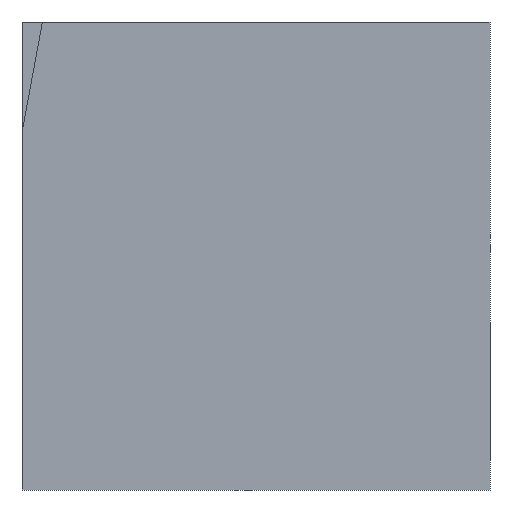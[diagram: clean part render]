
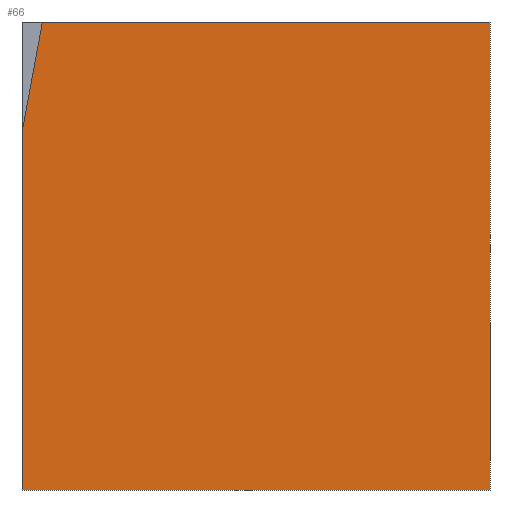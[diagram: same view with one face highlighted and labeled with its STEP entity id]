
A CAD part, front view. The second image highlights one B-rep face of the part: STEP entity #66.
In plain terms, the highlighted planar face has unit normal (0, -1, 0).
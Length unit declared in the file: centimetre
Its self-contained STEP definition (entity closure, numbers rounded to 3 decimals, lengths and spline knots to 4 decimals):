
#4 = CARTESIAN_POINT ( 'NONE',  ( 0., 0., 0. ) ) ;
#10 = VERTEX_POINT ( 'NONE', #322 ) ;
#25 = CARTESIAN_POINT ( 'NONE',  ( 43.4458, 0., 1000. ) ) ;
#33 = VECTOR ( 'NONE', #472, 100. ) ;
#45 = ORIENTED_EDGE ( 'NONE', *, *, #370, .F. ) ;
#63 = ORIENTED_EDGE ( 'NONE', *, *, #487, .T. ) ;
#66 = ADVANCED_FACE ( 'NONE', ( #373 ), #419, .F. ) ;
#73 = VERTEX_POINT ( 'NONE', #372 ) ;
#91 = DIRECTION ( 'NONE',  ( 0., 1., 0. ) ) ;
#102 = CARTESIAN_POINT ( 'NONE',  ( 1000., 0., 1000. ) ) ;
#115 = LINE ( 'NONE', #277, #311 ) ;
#126 = EDGE_CURVE ( 'NONE', #244, #361, #211, .T. ) ;
#134 = CARTESIAN_POINT ( 'NONE',  ( 0., 0., 1000. ) ) ;
#149 = LINE ( 'NONE', #4, #33 ) ;
#169 = EDGE_LOOP ( 'NONE', ( #204, #181, #281, #63, #45 ) ) ;
#181 = ORIENTED_EDGE ( 'NONE', *, *, #126, .F. ) ;
#199 = AXIS2_PLACEMENT_3D ( 'NONE', #411, #91, #450 ) ;
#204 = ORIENTED_EDGE ( 'NONE', *, *, #324, .F. ) ;
#207 = VECTOR ( 'NONE', #504, 100. ) ;
#211 = LINE ( 'NONE', #445, #207 ) ;
#228 = EDGE_CURVE ( 'NONE', #244, #345, #115, .T. ) ;
#244 = VERTEX_POINT ( 'NONE', #418 ) ;
#270 = DIRECTION ( 'NONE',  ( 0., 0., -1. ) ) ;
#277 = CARTESIAN_POINT ( 'NONE',  ( 0., 0., 1000. ) ) ;
#281 = ORIENTED_EDGE ( 'NONE', *, *, #228, .T. ) ;
#304 = DIRECTION ( 'NONE',  ( 1., 0., 0. ) ) ;
#308 = CARTESIAN_POINT ( 'NONE',  ( 0., 0., 0. ) ) ;
#311 = VECTOR ( 'NONE', #270, 100. ) ;
#322 = CARTESIAN_POINT ( 'NONE',  ( 1000., 0., 1000. ) ) ;
#324 = EDGE_CURVE ( 'NONE', #361, #10, #382, .T. ) ;
#345 = VERTEX_POINT ( 'NONE', #308 ) ;
#349 = VECTOR ( 'NONE', #376, 100. ) ;
#361 = VERTEX_POINT ( 'NONE', #25 ) ;
#370 = EDGE_CURVE ( 'NONE', #10, #73, #457, .T. ) ;
#372 = CARTESIAN_POINT ( 'NONE',  ( 1000., 0., 0. ) ) ;
#373 = FACE_OUTER_BOUND ( 'NONE', #169, .T. ) ;
#376 = DIRECTION ( 'NONE',  ( 0., 0., -1. ) ) ;
#382 = LINE ( 'NONE', #134, #389 ) ;
#389 = VECTOR ( 'NONE', #304, 100. ) ;
#411 = CARTESIAN_POINT ( 'NONE',  ( 0., 0., 1000. ) ) ;
#418 = CARTESIAN_POINT ( 'NONE',  ( 0., 0., 762.9525 ) ) ;
#419 = PLANE ( 'NONE',  #199 ) ;
#445 = CARTESIAN_POINT ( 'NONE',  ( 0., 0., 762.9525 ) ) ;
#450 = DIRECTION ( 'NONE',  ( 0., 0., 1. ) ) ;
#457 = LINE ( 'NONE', #102, #349 ) ;
#472 = DIRECTION ( 'NONE',  ( 1., 0., 0. ) ) ;
#487 = EDGE_CURVE ( 'NONE', #345, #73, #149, .T. ) ;
#504 = DIRECTION ( 'NONE',  ( 0.18, 0., 0.984 ) ) ;
